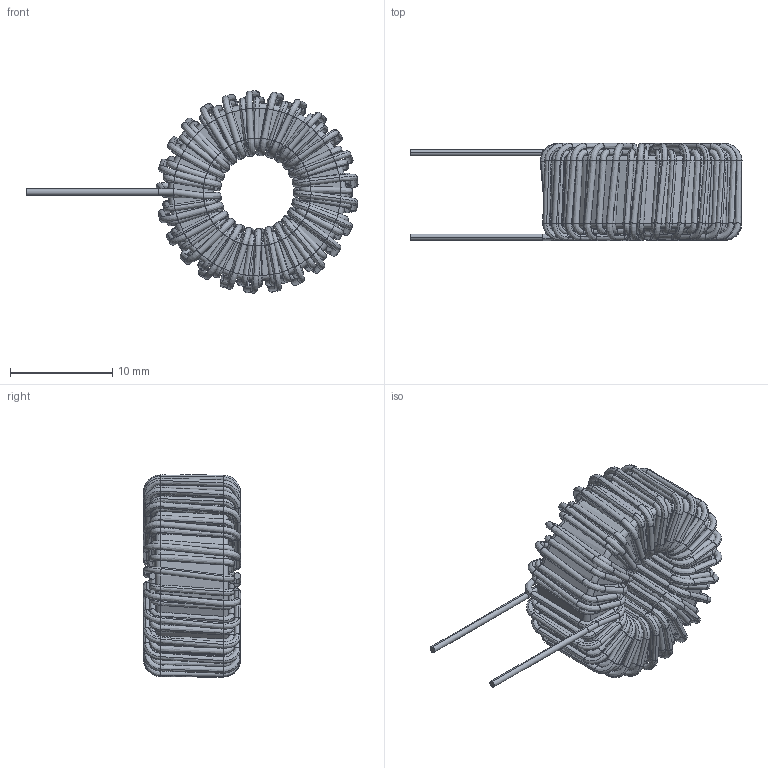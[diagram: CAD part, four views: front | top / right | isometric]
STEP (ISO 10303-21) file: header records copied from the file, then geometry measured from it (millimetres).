
FILE_DESCRIPTION (( 'STEP AP214' ), '1' );
FILE_NAME ('HF166-151M-2.7AV REV.C.STEP', '2018-12-03T02:29:41', ( '' ), ( '' ), 'SwSTEP 2.0', 'SolidWorks 2015', '' );
FILE_SCHEMA (( 'AUTOMOTIVE_DESIGN' ));
Length unit declared in the file: millimetre
Products named in the file (1): HF166-151M-2.7AV REV.C
Bounding box: 32.48 x 9.51 x 19.79 mm (x, y, z)
Volume: 1693.1 mm3; surface area: 4142.6 mm2
Topology: 4 solids, 4 shells, 1062 faces, 2122 edges, 1068 vertices
Faces by surface type: bspline 1034, cylinder 12, plane 8, torus 8
Entity records: 104189 total; most frequent: CARTESIAN_POINT 76365, ORIENTED_EDGE 4244, DIRECTION 2198, EDGE_CURVE 2122, AXIS2_PLACEMENT_3D 1093, VERTEX_POINT 1068, UNCERTAINTY_MEASURE_WITH_UNIT 1068, SURFACE_SIDE_STYLE 1067
